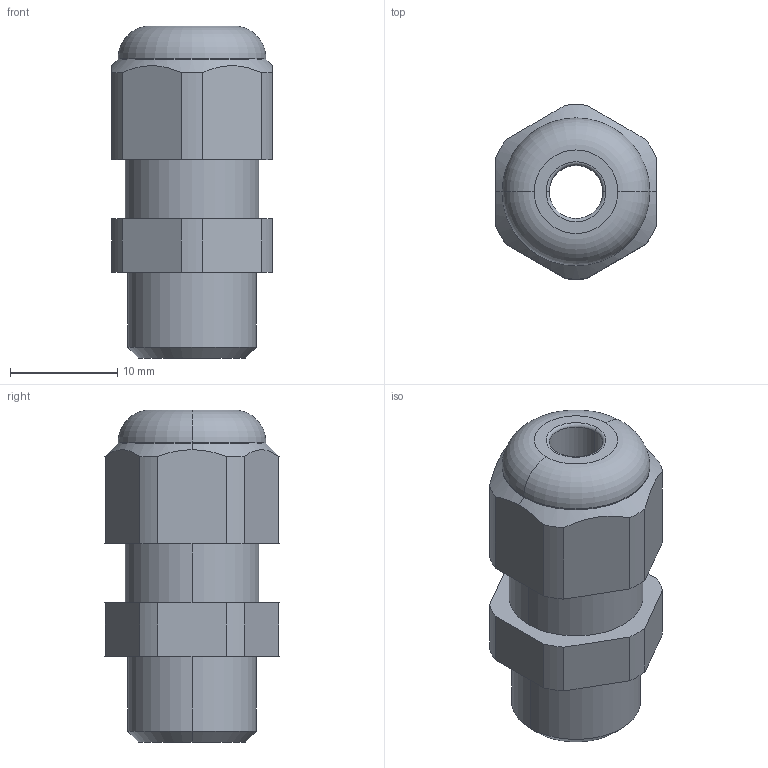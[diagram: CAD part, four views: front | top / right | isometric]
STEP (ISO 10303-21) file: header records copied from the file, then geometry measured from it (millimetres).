
FILE_DESCRIPTION (( 'STEP AP203' ), '1' );
FILE_NAME ('50.612 PA-R.STEP', '2005-09-21T09:08:22', ( ' ' ), ( '' ), 'SwSTEP 2.0', 'SolidWorks 2005143', '' );
FILE_SCHEMA (( 'CONFIG_CONTROL_DESIGN' ));
Length unit declared in the file: millimetre
Products named in the file (1): 50.612 PA-R
Bounding box: 15 x 16.29 x 31 mm (x, y, z)
Volume: 4083.2 mm3; surface area: 2233.9 mm2
Topology: 1 solids, 1 shells, 82 faces, 214 edges, 140 vertices
Faces by surface type: plane 54, cylinder 20, cone 4, torus 4
Entity records: 2637 total; most frequent: CARTESIAN_POINT 505, ORIENTED_EDGE 428, DIRECTION 422, EDGE_CURVE 214, VECTOR 156, LINE 156, VERTEX_POINT 140, AXIS2_PLACEMENT_3D 133
